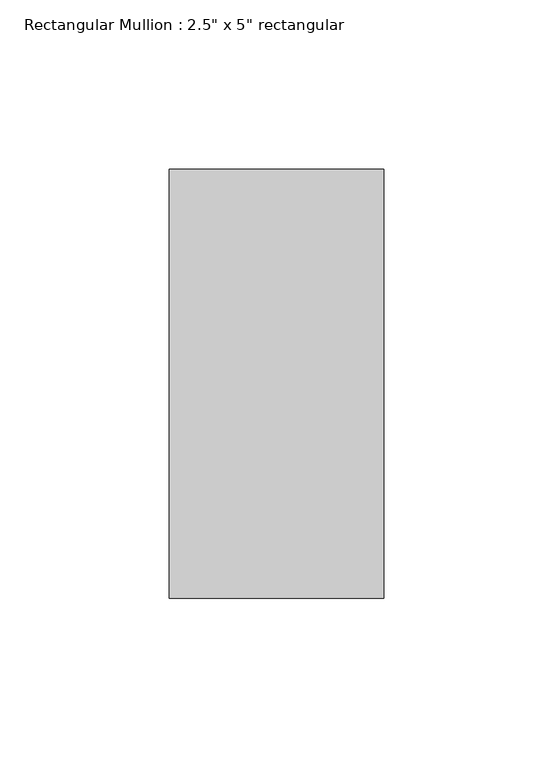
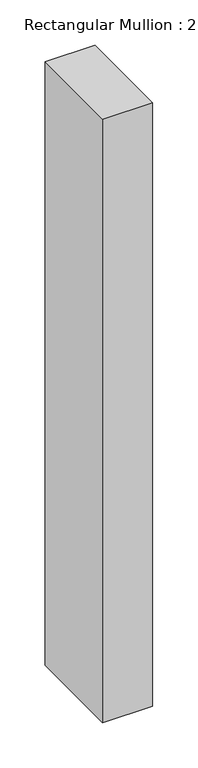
"""IFC4 building model written with IfcOpenShell, lengths in millimetres: member geometry."""

import ifcopenshell
import ifcopenshell.guid

model = None  # the IFC model being written
_history = None  # IfcOwnerHistory: only IFC2X3 demands one
_inside = {}  # id of a spatial element -> (the spatial element, [elements in it])
_under = {}  # id of a project, library or spatial element -> (it, [spatial elements below it])
_declared = {}  # id of a project -> (the project, [libraries it declares])
_typed = {}  # id of a type object -> (the type object, [elements of that type])
_made_of = {}  # id of a material, layer set ... -> (it, [elements and type objects made of it])


def new_model(schema):
    """Start an empty IFC model of exactly this schema.

    Asked for "IFC4X3", IfcOpenShell would pick the latest addendum, in which some entities
    have other attributes; the version numbers below select the first issue.
    IFC2X3 requires an IfcOwnerHistory on every rooted entity: one is made here for all.
    """
    global model, _history
    if schema == "IFC4X3":
        model = ifcopenshell.file(schema_version=(4, 3, 0, 0))
    else:
        model = ifcopenshell.file(schema=schema)
    _inside.clear()
    _under.clear()
    _declared.clear()
    _typed.clear()
    _made_of.clear()
    _history = None
    if model.schema == "IFC2X3":
        org = make("IfcOrganization", Name="unknown")
        user = make(
            "IfcPersonAndOrganization",
            ThePerson=make("IfcPerson", FamilyName="unknown"),
            TheOrganization=org,
        )
        app = make(
            "IfcApplication",
            ApplicationDeveloper=org,
            Version="unknown",
            ApplicationFullName="unknown",
            ApplicationIdentifier="unknown",
        )
        _history = make(
            "IfcOwnerHistory",
            OwningUser=user,
            OwningApplication=app,
            ChangeAction="ADDED",
            CreationDate=0,
        )
    return model


def make(cls, **values):
    """One entity of the class cls with the attributes given. An attribute that is None is left unset."""
    return model.create_entity(
        cls, **{name: value for name, value in values.items() if value is not None}
    )


def rooted(cls, **values):
    """An entity with a GlobalId (a new one), such as an element, a storey or a relation."""
    return make(cls, GlobalId=ifcopenshell.guid.new(), OwnerHistory=_history, **values)


def si_unit(unit_type, name, prefix=None):
    """IfcSIUnit, for example si_unit("LENGTHUNIT", "METRE", prefix="MILLI")."""
    return make("IfcSIUnit", UnitType=unit_type, Prefix=prefix, Name=name)


def assignment(units):
    """IfcUnitAssignment: the units of a project."""
    return None if units is None else make("IfcUnitAssignment", Units=units)


def point(xyz):
    """IfcCartesianPoint."""
    return None if xyz is None else make("IfcCartesianPoint", Coordinates=xyz)


def direction(xyz):
    """IfcDirection."""
    return None if xyz is None else make("IfcDirection", DirectionRatios=xyz)


def frame(location, z_axis=None, x_axis=None):
    """IfcAxis2Placement3D, a coordinate frame: its origin and axes. An axis left out is left unset."""
    return make(
        "IfcAxis2Placement3D",
        Location=point(location),
        Axis=direction(z_axis),
        RefDirection=direction(x_axis),
    )


def origin():
    """The frame at (0, 0, 0) with its axes left unset."""
    return frame((0.0, 0.0, 0.0))


def place(relative_to, where):
    """IfcLocalPlacement: puts the frame where relative to a parent placement (None: the world)."""
    return make(
        "IfcLocalPlacement", PlacementRelTo=relative_to, RelativePlacement=where
    )


def context(
    kind, dimensions, precision=None, world=None, true_north=None, identifier=None
):
    """IfcGeometricRepresentationContext, for example the 3D "Model" context."""
    return make(
        "IfcGeometricRepresentationContext",
        ContextIdentifier=identifier,
        ContextType=kind,
        CoordinateSpaceDimension=dimensions,
        Precision=precision,
        WorldCoordinateSystem=world,
        TrueNorth=true_north,
    )


def project(units=None, contexts=None):
    """IfcProject with its units and contexts."""
    return rooted(
        "IfcProject",
        Name="project",
        RepresentationContexts=contexts,
        UnitsInContext=assignment(units),
    )


def spatial(cls, under=None, at=None, **own):
    """A site, building, storey or space (cls), placed at a placement, below another one or the project."""
    s = rooted(cls, ObjectPlacement=at, **own)
    if under is not None:
        _under.setdefault(under.id(), (under, []))[1].append(s)
    return s


def polyline(points):
    """IfcPolyline through the points."""
    return make("IfcPolyline", Points=[point(p) for p in points])


def outline(outer, holes=None, kind="AREA"):
    """IfcArbitraryClosedProfileDef: a profile drawn as a closed curve; with holes, ...WithVoids."""
    if holes is None:
        return make("IfcArbitraryClosedProfileDef", ProfileType=kind, OuterCurve=outer)
    return make(
        "IfcArbitraryProfileDefWithVoids",
        ProfileType=kind,
        OuterCurve=outer,
        InnerCurves=holes,
    )


def extrude(swept, where, along, depth):
    """IfcExtrudedAreaSolid: the profile swept, set in the frame where, extruded along a direction by depth."""
    return make(
        "IfcExtrudedAreaSolid",
        SweptArea=swept,
        Position=where,
        ExtrudedDirection=direction(along),
        Depth=depth,
    )


def shape(context_of_items, identifier, shape_type, items):
    """IfcShapeRepresentation: the items that make up one representation, for example the "Body"."""
    return make(
        "IfcShapeRepresentation",
        ContextOfItems=context_of_items,
        RepresentationIdentifier=identifier,
        RepresentationType=shape_type,
        Items=items,
    )


def source(mapping_origin, context_of_items, identifier, shape_type, items):
    """IfcRepresentationMap: a shape defined once, which mapped items show again and again."""
    return make(
        "IfcRepresentationMap",
        MappingOrigin=mapping_origin,
        MappedRepresentation=shape(context_of_items, identifier, shape_type, items),
    )


def transform(
    local_origin,
    x_axis=None,
    y_axis=None,
    z_axis=None,
    scale=None,
    scale2=None,
    scale3=None,
    uniform=True,
):
    """IfcCartesianTransformationOperator3D, or its non-uniform kind. x_axis, y_axis, z_axis: its Axis1, 2, 3."""
    if uniform:
        return make(
            "IfcCartesianTransformationOperator3D",
            Axis1=direction(x_axis),
            Axis2=direction(y_axis),
            LocalOrigin=point(local_origin),
            Scale=scale,
            Axis3=direction(z_axis),
        )
    return make(
        "IfcCartesianTransformationOperator3DnonUniform",
        Axis1=direction(x_axis),
        Axis2=direction(y_axis),
        LocalOrigin=point(local_origin),
        Scale=scale,
        Axis3=direction(z_axis),
        Scale2=scale2,
        Scale3=scale3,
    )


def mapped(mapping_source, mapping_target):
    """IfcMappedItem: shows the shape of a source again, moved by a transform."""
    return make(
        "IfcMappedItem", MappingSource=mapping_source, MappingTarget=mapping_target
    )


def made_of(thing, what):
    """Note that an element or type object is made of a material, layer set ...; save() writes the relation."""
    if what is not None:
        _made_of.setdefault(what.id(), (what, []))[1].append(thing)
    return thing


def element(
    cls,
    number,
    at=None,
    inside=None,
    cuts=None,
    type_object=None,
    material=None,
    context=None,
    identifier="Body",
    shape_type=None,
    held_by="IfcProductDefinitionShape",
    body=None,
    shapes=None,
    **own,
):
    """One element of the class cls, such as IfcWall. Its Tag is "e" and its number.

    at: its placement. inside: the storey or other place that contains it. cuts: it is an
    opening in that element (IfcRelVoidsElement). A single representation is given by context,
    identifier, shape_type and body (its items); several are given by shapes. held_by: the class
    of the entity that holds the representations. save() writes the other relations.
    """
    e = rooted(cls, Tag="e%d" % number, ObjectPlacement=at, **own)
    if body is not None:
        shapes = [shape(context, identifier, shape_type, body)]
    if shapes is not None:
        e.Representation = make(held_by, Representations=shapes)
    if inside is not None:
        _inside.setdefault(inside.id(), (inside, []))[1].append(e)
    if cuts is not None:
        rooted(
            "IfcRelVoidsElement", RelatingBuildingElement=cuts, RelatedOpeningElement=e
        )
    if type_object is not None:
        _typed.setdefault(type_object.id(), (type_object, []))[1].append(e)
    return made_of(e, material)


def aggregate(whole, parts):
    """IfcRelAggregates: a whole, such as a stair, and the parts it consists of."""
    return rooted("IfcRelAggregates", RelatingObject=whole, RelatedObjects=parts)


def save(model, path):
    """Write the relations noted so far, then the file.

    IfcRelAggregates (storeys below a building ...), IfcRelContainedInSpatialStructure (elements
    in a storey), IfcRelDefinesByType, IfcRelAssociatesMaterial and IfcRelDeclares: one each for
    every whole, place, type object, material and project.
    """
    for whole, parts in _under.values():
        aggregate(whole, parts)
    for where, things in _inside.values():
        rooted(
            "IfcRelContainedInSpatialStructure",
            RelatedElements=things,
            RelatingStructure=where,
        )
    for kind, things in _typed.values():
        rooted("IfcRelDefinesByType", RelatedObjects=things, RelatingType=kind)
    for what, things in _made_of.values():
        rooted("IfcRelAssociatesMaterial", RelatedObjects=things, RelatingMaterial=what)
    for by, libraries in _declared.values():
        rooted("IfcRelDeclares", RelatingContext=by, RelatedDefinitions=libraries)
    model.write(path)


def member_8b3492ed(model_context):
    return source(origin(), model_context, "Body", "SweptSolid", [
        extrude(outline(polyline([(0.0, 63.5), (0.0, -63.5), (-63.5, -63.5), (-63.5, 63.5), (0.0, 63.5)])), frame((0.0, 0.0, -812.8), z_axis=(0.0, 0.0, 1.0), x_axis=(1.0, 0.0, 0.0)), (0.0, 0.0, 1.0), 812.8),
    ])


if __name__ == "__main__":
    model = new_model("IFC4")
    model_context = context("Model", 3, world=origin())
    ifc_project = project(units=[si_unit("LENGTHUNIT", "METRE", prefix="MILLI")], contexts=[model_context])
    site = spatial("IfcSite", under=ifc_project)
    building = spatial("IfcBuilding", under=site)
    placement = place(None, origin())
    member_shape = member_8b3492ed(model_context)
    element("IfcMember", 1, ObjectType="Rectangular Mullion : 2.5\" x 5\" rectangular", at=placement, inside=building, context=model_context, shape_type="MappedRepresentation", body=[
        mapped(member_shape, transform((0.0, 0.0, 0.0), x_axis=(1.0, 0.0, 0.0), y_axis=(0.0, 1.0, 0.0), z_axis=(0.0, 0.0, 1.0))),
    ])
    save(model, "model.ifc")
